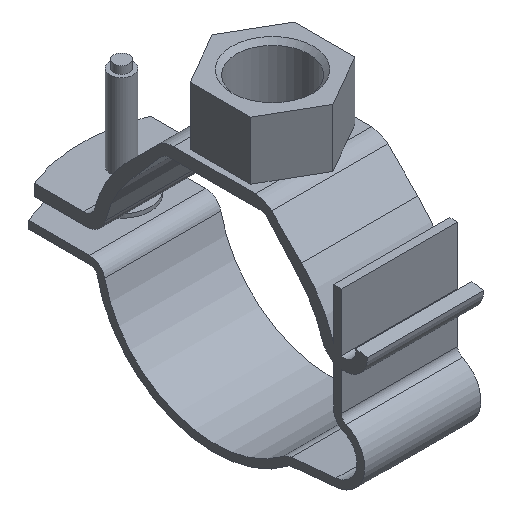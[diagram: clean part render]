
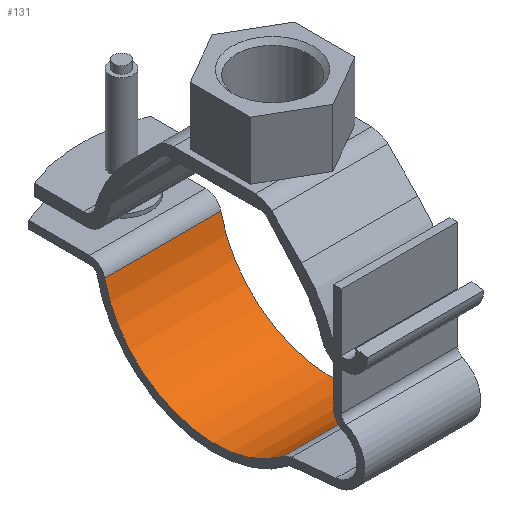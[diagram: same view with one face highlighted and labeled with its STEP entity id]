
A CAD part, isometric view. The second image highlights one B-rep face of the part: STEP entity #131.
In plain terms, the highlighted cylindrical face has radius 29 mm (diameter 58 mm), a partial arc.
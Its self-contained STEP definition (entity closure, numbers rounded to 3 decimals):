
#131 = ADVANCED_FACE( '', ( #317 ), #318, .F. );
#317 = FACE_OUTER_BOUND( '', #564, .T. );
#318 = CYLINDRICAL_SURFACE( '', #565, 29. );
#564 = EDGE_LOOP( '', ( #880, #881, #882, #883 ) );
#565 = AXIS2_PLACEMENT_3D( '', #884, #885, #886 );
#880 = ORIENTED_EDGE( '', *, *, #1502, .F. );
#881 = ORIENTED_EDGE( '', *, *, #1503, .F. );
#882 = ORIENTED_EDGE( '', *, *, #1504, .T. );
#883 = ORIENTED_EDGE( '', *, *, #1505, .T. );
#884 = CARTESIAN_POINT( '', ( 15., 0., 0. ) );
#885 = DIRECTION( '', ( 1., 0., 0. ) );
#886 = DIRECTION( '', ( 0., 0., 1. ) );
#1502 = EDGE_CURVE( '', #1814, #1815, #1816, .T. );
#1503 = EDGE_CURVE( '', #1817, #1814, #1818, .T. );
#1504 = EDGE_CURVE( '', #1817, #1819, #1820, .T. );
#1505 = EDGE_CURVE( '', #1819, #1815, #1821, .T. );
#1814 = VERTEX_POINT( '', #2246 );
#1815 = VERTEX_POINT( '', #2247 );
#1816 = CIRCLE( '', #2248, 29. );
#1817 = VERTEX_POINT( '', #2249 );
#1818 = LINE( '', #2250, #2251 );
#1819 = VERTEX_POINT( '', #2252 );
#1820 = CIRCLE( '', #2253, 29. );
#1821 = LINE( '', #2254, #2255 );
#2246 = CARTESIAN_POINT( '', ( -15., -17.747, -22.936 ) );
#2247 = CARTESIAN_POINT( '', ( -15., 28.34, -6.152 ) );
#2248 = AXIS2_PLACEMENT_3D( '', #2689, #2690, #2691 );
#2249 = CARTESIAN_POINT( '', ( 15., -17.747, -22.936 ) );
#2250 = CARTESIAN_POINT( '', ( 15., -17.747, -22.936 ) );
#2251 = VECTOR( '', #2692, 1000. );
#2252 = CARTESIAN_POINT( '', ( 15., 28.34, -6.152 ) );
#2253 = AXIS2_PLACEMENT_3D( '', #2693, #2694, #2695 );
#2254 = CARTESIAN_POINT( '', ( 15., 28.34, -6.152 ) );
#2255 = VECTOR( '', #2696, 1000. );
#2689 = CARTESIAN_POINT( '', ( -15., 0., 0. ) );
#2690 = DIRECTION( '', ( 1., 0., 0. ) );
#2691 = DIRECTION( '', ( 0., 0., -1. ) );
#2692 = DIRECTION( '', ( -1., 0., 0. ) );
#2693 = CARTESIAN_POINT( '', ( 15., 0., 0. ) );
#2694 = DIRECTION( '', ( 1., 0., 0. ) );
#2695 = DIRECTION( '', ( 0., 0., -1. ) );
#2696 = DIRECTION( '', ( -1., 0., 0. ) );
